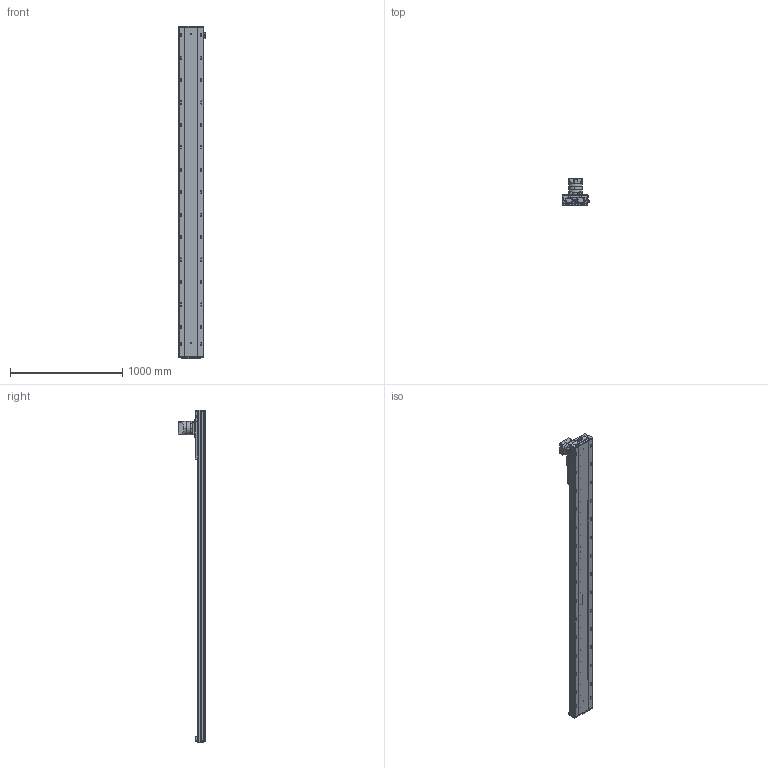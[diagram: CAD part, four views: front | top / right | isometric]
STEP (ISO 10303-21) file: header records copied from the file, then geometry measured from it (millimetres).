
FILE_DESCRIPTION (( 'STEP AP203' ), '1' );
FILE_NAME ('RY220-C-300-UK.SLDASM_2450.step', '2022-08-01T06:00:10', ( '' ), ( '' ), 'SwSTEP 2.0', 'SolidWorks 2016', '' );
FILE_SCHEMA (( 'CONFIG_CONTROL_DESIGN' ));
Length unit declared in the file: millimetre
Products named in the file (10): PF115L1-S2-22-58-110-145-M8; 滅袉蝶輸ㄗG412隅秶ㄘ; 覜茼ん674; RY220喘沭綴裔啣; RY220-齿条模组电机安装板; RY220-C-300-UK.SLDASM_2450; RY140直线电机感应器674光电安装座; RY220菁釱MK-300_2450; RY220喘沭俋离覜茼え; RY220喘沭賑輸
Assembly tree (12 placements, depth 2):
  RY220-C-300-UK.SLDASM_2450
    RY220菁釱MK-300_2450
    RY220喘沭賑輸
    RY220-齿条模组电机安装板
    PF115L1-S2-22-58-110-145-M8
    RY220喘沭綴裔啣  x2
    滅袉蝶輸ㄗG412隅秶ㄘ  x2
    RY140直线电机感应器674光电安装座
    覜茼ん674  x2
    RY220喘沭俋离覜茼え
Bounding box: 247 x 244.5 x 2959 mm (x, y, z)
Volume: 20198457.8 mm3; surface area: 4137104.7 mm2
Topology: 18 solids, 26 shells, 2308 faces, 6215 edges, 3888 vertices
Faces by surface type: cylinder 1115, plane 751, cone 280, bspline 162
Entity records: 73341 total; most frequent: CARTESIAN_POINT 19924, DIRECTION 11035, ORIENTED_EDGE 10770, EDGE_CURVE 5385, AXIS2_PLACEMENT_3D 4227, VERTEX_POINT 3514, EDGE_LOOP 2695, LINE 2581
